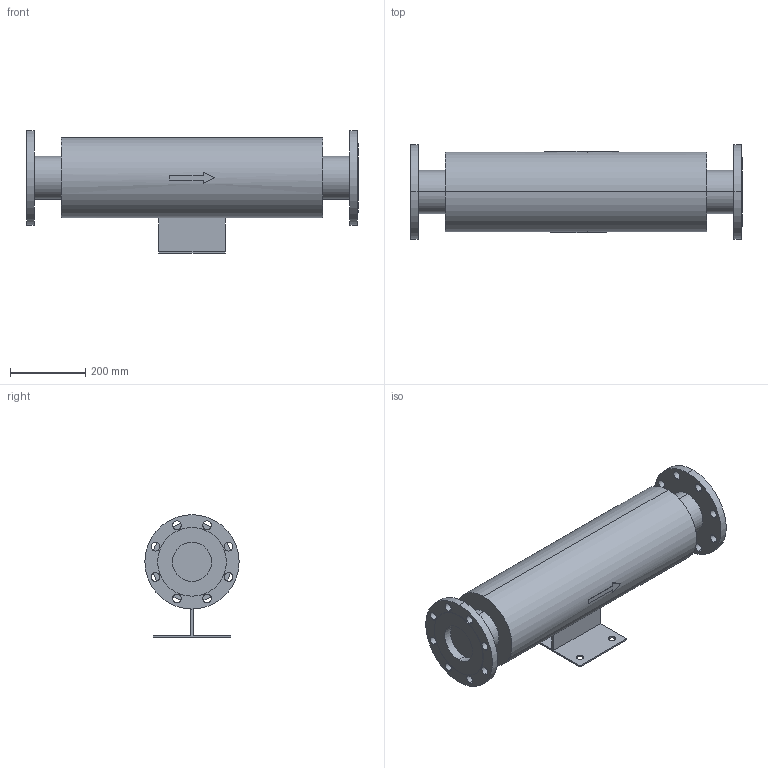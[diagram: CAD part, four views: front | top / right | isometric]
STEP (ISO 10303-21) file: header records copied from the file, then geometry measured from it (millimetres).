
FILE_DESCRIPTION( (''), '2;1');
FILE_NAME ('PC1027.12084.EB-2J　125A_4247.stp','2025-07-29T14:25:29',(''),(''),'spGate 20.6.3 (****-****-****-****)','','');
FILE_SCHEMA (('AUTOMOTIVE_DESIGN'));
Length unit declared in the file: millimetre
Bounding box: 880 x 250 x 325 mm (x, y, z)
Volume: 27753076.2 mm3; surface area: 900994 mm2
Topology: 1 solids, 1 shells, 93 faces, 242 edges, 162 vertices
Faces by surface type: cylinder 58, plane 35
Entity records: 4849 total; most frequent: CARTESIAN_POINT 563, DIRECTION 492, ORIENTED_EDGE 484, COLOUR_RGB 336, PRESENTATION_STYLE_ASSIGNMENT 336, STYLED_ITEM 336, EDGE_CURVE 242, DRAUGHTING_PRE_DEFINED_CURVE_FONT 242
